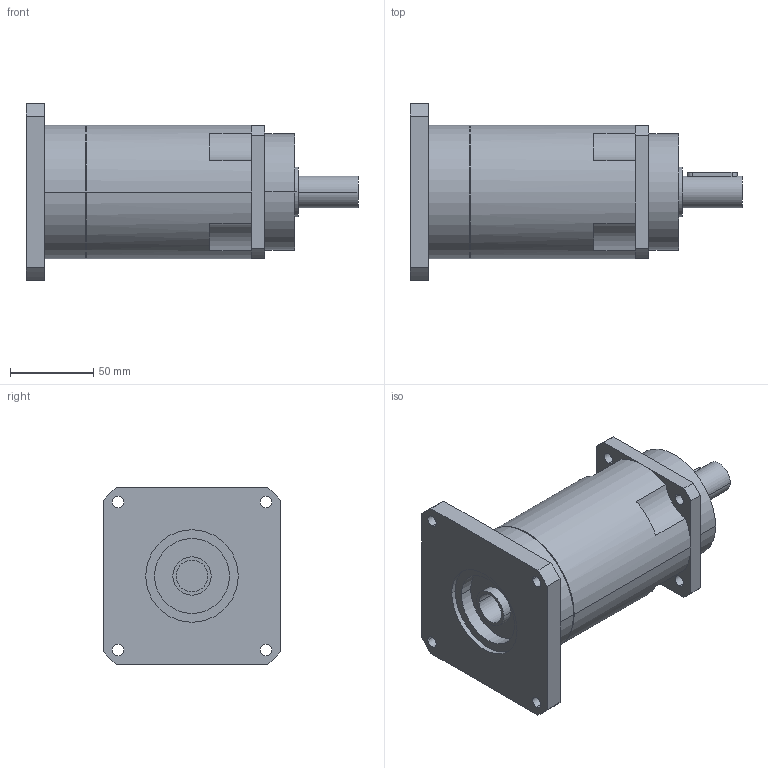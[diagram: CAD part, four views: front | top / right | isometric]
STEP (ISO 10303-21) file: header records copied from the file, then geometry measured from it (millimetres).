
FILE_DESCRIPTION(('CoCreate Modeling STEP Export'),'2;1');
FILE_NAME('GPR100_ig-48-64-80-100-120-144-180-216_19_B5_19_P02.stp','2014-08-26T11:56:41',(''),(''),'CoCreate Modeling STEP processor for AP214 (Solid Model)','CoCreate Modeling 16.00C 25-Feb-2009 (C) Parametric Technology GmbH','');
FILE_SCHEMA(('AUTOMOTIVE_DESIGN { 1 0 10303 214 1 1 1 1 }'));
Length unit declared in the file: millimetre
Products named in the file (2): GPR100_ig-48-64-80-100-120-144-180-216_19_B5_19_P02
Assembly tree (1 placements, depth 2):
  GPR100_ig-48-64-80-100-120-144-180-216_19_B5_19_P02
    GPR100_ig-48-64-80-100-120-144-180-216_19_B5_19_P02
Bounding box: 199.4 x 106.5 x 106.5 mm (x, y, z)
Volume: 841545 mm3; surface area: 76211.5 mm2
Topology: 1 solids, 1 shells, 86 faces, 242 edges, 166 vertices
Faces by surface type: cylinder 50, plane 30, cone 6
Entity records: 2552 total; most frequent: ORIENTED_EDGE 480, CARTESIAN_POINT 465, DIRECTION 376, EDGE_CURVE 240, VERTEX_POINT 166, AXIS2_PLACEMENT_3D 141, EDGE_LOOP 112, VECTOR 94
